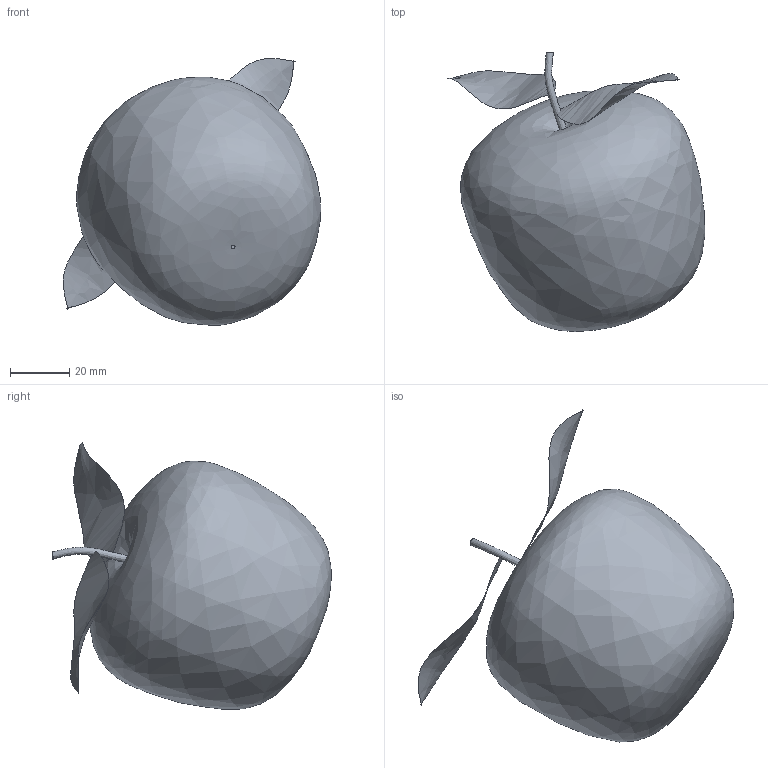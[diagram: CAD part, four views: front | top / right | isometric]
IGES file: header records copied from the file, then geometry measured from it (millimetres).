
Start section: example2.igs
Global section: file name: SURF128.IGS; native system: {unspecified}; preprocessor: {unspecified}; author: 33H; organization: 35H; date: 950818.162936; units: inch
Bounding box: 87.28 x 94.61 x 90.5 mm (x, y, z)
Surface area: 23771.4 mm2 (no closed solid volume)
Topology: 0 solids, 0 shells, 4 faces, 16 edges, 16 vertices
Faces by surface type: bspline 4
